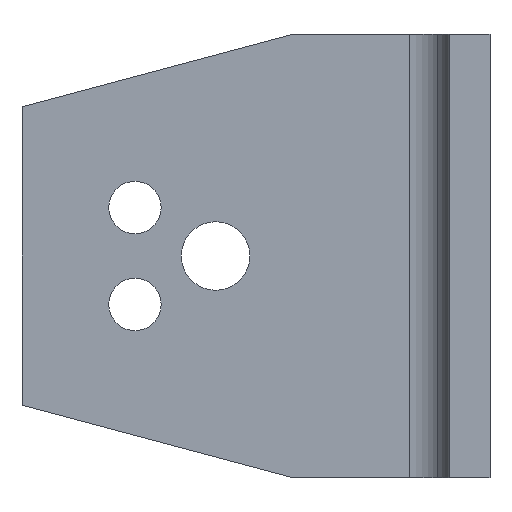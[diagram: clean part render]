
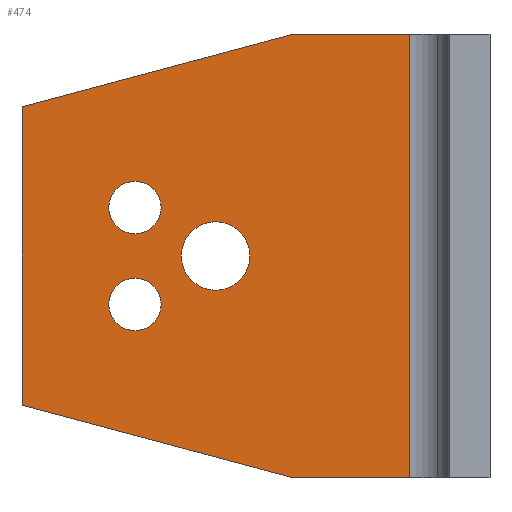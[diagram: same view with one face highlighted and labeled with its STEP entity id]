
A CAD part, left-side view. The second image highlights one B-rep face of the part: STEP entity #474.
In plain terms, the highlighted planar face has unit normal (-1, 0, 0).
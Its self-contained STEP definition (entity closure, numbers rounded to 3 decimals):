
#133=CARTESIAN_POINT('',(-6.,7.,31.75));
#134=VERTEX_POINT('',#133);
#143=CARTESIAN_POINT('',(-6.,7.,23.25));
#144=VERTEX_POINT('',#143);
#145=CARTESIAN_POINT('',(-6.,7.,27.5));
#146=DIRECTION('',(1.0,0.0,0.0));
#147=DIRECTION('',(0.0,0.0,1.0));
#148=AXIS2_PLACEMENT_3D('',#145,#146,#147);
#149=CIRCLE('',#148,4.25);
#150=EDGE_CURVE('',#144,#134,#149,.T.);
#175=CARTESIAN_POINT('',(-6.,17.,36.75));
#176=VERTEX_POINT('',#175);
#185=CARTESIAN_POINT('',(-6.,17.,30.25));
#186=VERTEX_POINT('',#185);
#187=CARTESIAN_POINT('',(-6.,17.,33.5));
#188=DIRECTION('',(1.0,0.0,0.0));
#189=DIRECTION('',(0.0,0.0,1.0));
#190=AXIS2_PLACEMENT_3D('',#187,#188,#189);
#191=CIRCLE('',#190,3.25);
#192=EDGE_CURVE('',#186,#176,#191,.T.);
#217=CARTESIAN_POINT('',(-6.,17.,24.75));
#218=VERTEX_POINT('',#217);
#227=CARTESIAN_POINT('',(-6.,17.,18.25));
#228=VERTEX_POINT('',#227);
#229=CARTESIAN_POINT('',(-6.,17.,21.5));
#230=DIRECTION('',(1.0,0.0,0.0));
#231=DIRECTION('',(0.0,0.0,1.0));
#232=AXIS2_PLACEMENT_3D('',#229,#230,#231);
#233=CIRCLE('',#232,3.25);
#234=EDGE_CURVE('',#228,#218,#233,.T.);
#259=CARTESIAN_POINT('',(-6.,31.0,9.));
#260=VERTEX_POINT('',#259);
#261=CARTESIAN_POINT('',(-6.,-2.588,0.0));
#262=VERTEX_POINT('',#261);
#263=CARTESIAN_POINT('',(-6.,31.0,9.));
#264=DIRECTION('',(0.,-0.966,-0.259));
#265=VECTOR('',#264,34.773);
#266=LINE('',#263,#265);
#267=EDGE_CURVE('',#260,#262,#266,.T.);
#299=CARTESIAN_POINT('',(-6.,-2.588,55.0));
#300=VERTEX_POINT('',#299);
#301=CARTESIAN_POINT('',(-6.,31.0,46.0));
#302=VERTEX_POINT('',#301);
#303=CARTESIAN_POINT('',(-6.,-2.588,55.0));
#304=DIRECTION('',(0.,0.966,-0.259));
#305=VECTOR('',#304,34.773);
#306=LINE('',#303,#305);
#307=EDGE_CURVE('',#300,#302,#306,.T.);
#340=CARTESIAN_POINT('',(-6.,31.0,9.));
#341=DIRECTION('',(0.0,0.0,1.0));
#342=VECTOR('',#341,37.);
#343=LINE('',#340,#342);
#344=EDGE_CURVE('',#260,#302,#343,.T.);
#362=CARTESIAN_POINT('',(-6.,-17.,55.0));
#363=VERTEX_POINT('',#362);
#364=CARTESIAN_POINT('',(-6.,-17.,55.0));
#365=DIRECTION('',(0.0,1.0,0.0));
#366=VECTOR('',#365,14.412);
#367=LINE('',#364,#366);
#368=EDGE_CURVE('',#363,#300,#367,.T.);
#419=CARTESIAN_POINT('',(-6.,-22.,0.0));
#420=DIRECTION('',(-1.0,0.0,0.0));
#421=DIRECTION('',(0.0,0.0,1.0));
#422=AXIS2_PLACEMENT_3D('',#419,#420,#421);
#423=PLANE('',#422);
#424=ORIENTED_EDGE('',*,*,#267,.T.);
#425=CARTESIAN_POINT('',(-6.,-17.,0.0));
#426=VERTEX_POINT('',#425);
#427=CARTESIAN_POINT('',(-6.,-2.588,0.0));
#428=DIRECTION('',(0.0,-1.0,0.0));
#429=VECTOR('',#428,14.412);
#430=LINE('',#427,#429);
#431=EDGE_CURVE('',#262,#426,#430,.T.);
#432=ORIENTED_EDGE('',*,*,#431,.T.);
#433=CARTESIAN_POINT('',(-6.,-17.,55.0));
#434=DIRECTION('',(0.0,0.0,-1.0));
#435=VECTOR('',#434,55.0);
#436=LINE('',#433,#435);
#437=EDGE_CURVE('',#363,#426,#436,.T.);
#438=ORIENTED_EDGE('',*,*,#437,.F.);
#439=ORIENTED_EDGE('',*,*,#368,.T.);
#440=ORIENTED_EDGE('',*,*,#307,.T.);
#441=ORIENTED_EDGE('',*,*,#344,.F.);
#442=EDGE_LOOP('',(#424,#432,#438,#439,#440,#441));
#443=FACE_OUTER_BOUND('',#442,.T.);
#444=ORIENTED_EDGE('',*,*,#150,.T.);
#445=CARTESIAN_POINT('',(-6.,7.,27.5));
#446=DIRECTION('',(1.0,0.0,0.0));
#447=DIRECTION('',(0.0,0.0,1.0));
#448=AXIS2_PLACEMENT_3D('',#445,#446,#447);
#449=CIRCLE('',#448,4.25);
#450=EDGE_CURVE('',#134,#144,#449,.T.);
#451=ORIENTED_EDGE('',*,*,#450,.T.);
#452=EDGE_LOOP('',(#444,#451));
#453=FACE_BOUND('',#452,.T.);
#454=ORIENTED_EDGE('',*,*,#192,.T.);
#455=CARTESIAN_POINT('',(-6.,17.,33.5));
#456=DIRECTION('',(1.0,0.0,0.0));
#457=DIRECTION('',(0.0,0.0,1.0));
#458=AXIS2_PLACEMENT_3D('',#455,#456,#457);
#459=CIRCLE('',#458,3.25);
#460=EDGE_CURVE('',#176,#186,#459,.T.);
#461=ORIENTED_EDGE('',*,*,#460,.T.);
#462=EDGE_LOOP('',(#454,#461));
#463=FACE_BOUND('',#462,.T.);
#464=ORIENTED_EDGE('',*,*,#234,.T.);
#465=CARTESIAN_POINT('',(-6.,17.,21.5));
#466=DIRECTION('',(1.0,0.0,0.0));
#467=DIRECTION('',(0.0,0.0,1.0));
#468=AXIS2_PLACEMENT_3D('',#465,#466,#467);
#469=CIRCLE('',#468,3.25);
#470=EDGE_CURVE('',#218,#228,#469,.T.);
#471=ORIENTED_EDGE('',*,*,#470,.T.);
#472=EDGE_LOOP('',(#464,#471));
#473=FACE_BOUND('',#472,.T.);
#474=ADVANCED_FACE('',(#443,#453,#463,#473),#423,.T.);
